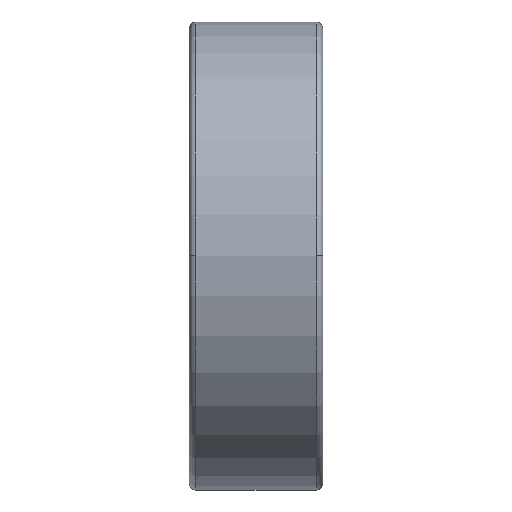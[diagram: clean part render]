
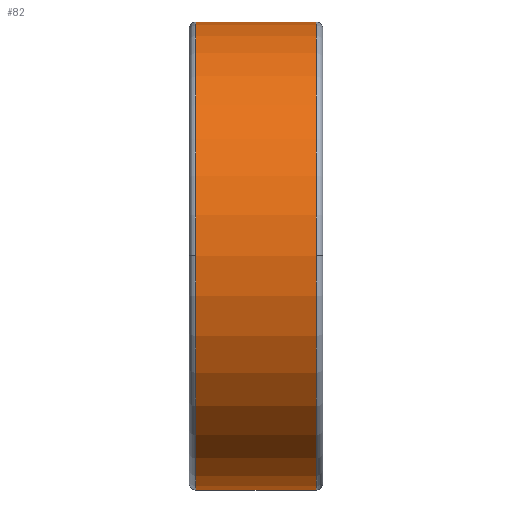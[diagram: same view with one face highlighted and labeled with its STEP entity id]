
A CAD part, top view. The second image highlights one B-rep face of the part: STEP entity #82.
In plain terms, the highlighted cylindrical face has radius 21 mm (diameter 42 mm), a partial arc.
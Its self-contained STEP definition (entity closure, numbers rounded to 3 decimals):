
#82=ADVANCED_FACE('',(#205),#206,.T.);
#205=FACE_OUTER_BOUND('',#467,.T.);
#206=CYLINDRICAL_SURFACE('',#468,21.0);
#467=EDGE_LOOP('',(#753,#754,#755,#756,#757,#758));
#468=AXIS2_PLACEMENT_3D('',#759,#760,#761);
#753=ORIENTED_EDGE('',*,*,#1621,.F.);
#754=ORIENTED_EDGE('',*,*,#1622,.T.);
#755=ORIENTED_EDGE('',*,*,#1623,.T.);
#756=ORIENTED_EDGE('',*,*,#1624,.F.);
#757=ORIENTED_EDGE('',*,*,#1625,.F.);
#758=ORIENTED_EDGE('',*,*,#1617,.F.);
#759=CARTESIAN_POINT('',(6.0,0.0,0.0));
#760=DIRECTION('',(1.0,0.0,0.0));
#761=DIRECTION('',(0.0,1.0,0.0));
#1617=EDGE_CURVE('',#1892,#1894,#1895,.T.);
#1621=EDGE_CURVE('',#1901,#1892,#1902,.T.);
#1622=EDGE_CURVE('',#1901,#1903,#1904,.T.);
#1623=EDGE_CURVE('',#1903,#1905,#1906,.T.);
#1624=EDGE_CURVE('',#1907,#1905,#1908,.T.);
#1625=EDGE_CURVE('',#1894,#1907,#1909,.T.);
#1892=VERTEX_POINT('',#2330);
#1894=VERTEX_POINT('',#2332);
#1895=CIRCLE('',#2333,21.0);
#1901=VERTEX_POINT('',#2339);
#1902=LINE('',#2340,#2341);
#1903=VERTEX_POINT('',#2342);
#1904=CIRCLE('',#2343,21.0);
#1905=VERTEX_POINT('',#2344);
#1906=CIRCLE('',#2345,21.0);
#1907=VERTEX_POINT('',#2346);
#1908=LINE('',#2347,#2348);
#1909=CIRCLE('',#2349,21.0);
#2330=CARTESIAN_POINT('',(11.4,21.0,0.0));
#2332=CARTESIAN_POINT('',(11.4,0.,21.0));
#2333=AXIS2_PLACEMENT_3D('',#2833,#2834,#2835);
#2339=CARTESIAN_POINT('',(0.6,21.0,0.0));
#2340=CARTESIAN_POINT('',(6.0,21.0,0.));
#2341=VECTOR('',#2845,1.0);
#2342=CARTESIAN_POINT('',(0.6,0.,21.0));
#2343=AXIS2_PLACEMENT_3D('',#2846,#2847,#2848);
#2344=CARTESIAN_POINT('',(0.6,-21.0,0.));
#2345=AXIS2_PLACEMENT_3D('',#2849,#2850,#2851);
#2346=CARTESIAN_POINT('',(11.4,-21.0,0.));
#2347=CARTESIAN_POINT('',(6.0,-21.0,0.));
#2348=VECTOR('',#2852,1.0);
#2349=AXIS2_PLACEMENT_3D('',#2853,#2854,#2855);
#2833=CARTESIAN_POINT('',(11.4,0.0,0.0));
#2834=DIRECTION('',(1.0,0.0,0.0));
#2835=DIRECTION('',(0.0,1.0,0.0));
#2845=DIRECTION('',(1.0,0.0,0.0));
#2846=CARTESIAN_POINT('',(0.6,0.0,0.0));
#2847=DIRECTION('',(1.0,0.0,0.0));
#2848=DIRECTION('',(0.0,1.0,0.0));
#2849=CARTESIAN_POINT('',(0.6,0.0,0.0));
#2850=DIRECTION('',(1.0,0.0,0.0));
#2851=DIRECTION('',(0.0,1.0,0.0));
#2852=DIRECTION('',(-1.0,-0.0,-0.0));
#2853=CARTESIAN_POINT('',(11.4,0.0,0.0));
#2854=DIRECTION('',(1.0,0.0,0.0));
#2855=DIRECTION('',(0.0,1.0,0.0));
